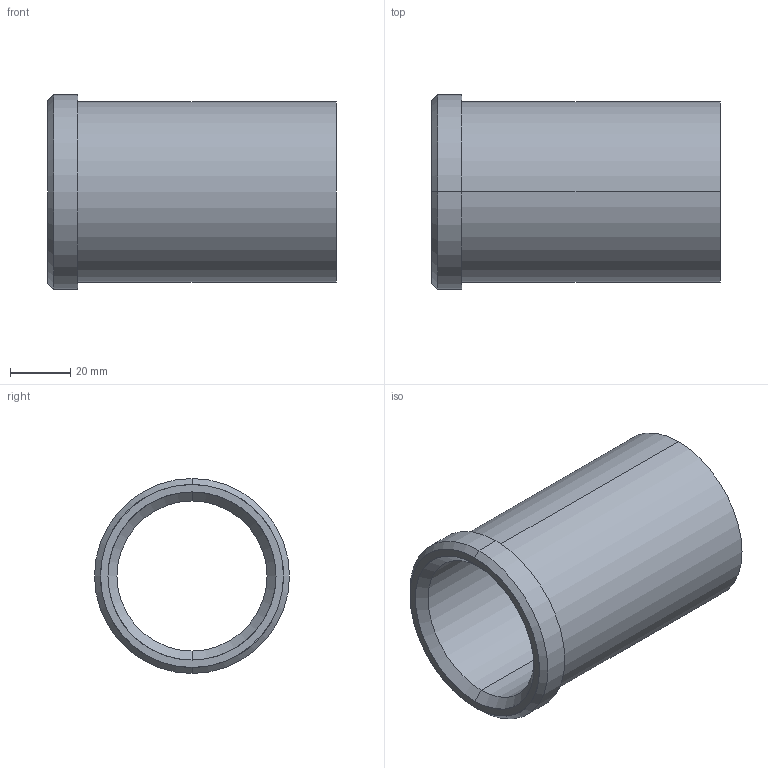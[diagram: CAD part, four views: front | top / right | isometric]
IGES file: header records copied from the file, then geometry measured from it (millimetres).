
Start section: START RECORD GO HERE.
Global section: file name: 353-50X96.igs; native system: DASSAULT SYSTEMES CATIA V5 R20 - www.3ds.com; preprocessor: CATIA Version 5 Release 20 ; author: Utente; organization: NB04-ASUS; date: 20210514.152242; units: millimetre
Bounding box: 96 x 65 x 65 mm (x, y, z)
Surface area: 35400.1 mm2 (no closed solid volume)
Topology: 0 solids, 0 shells, 15 faces, 96 edges, 96 vertices
Faces by surface type: revolution 12, plane 3
